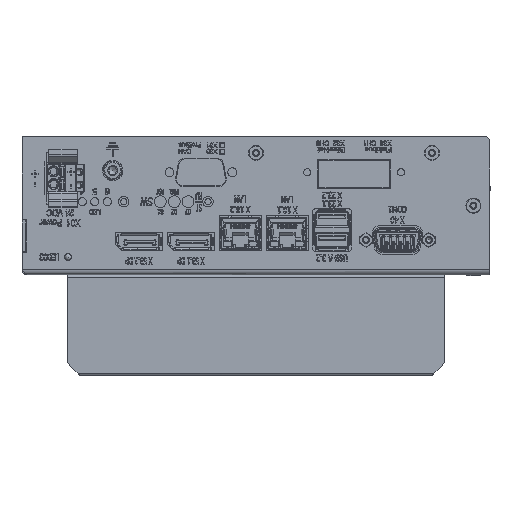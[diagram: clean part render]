
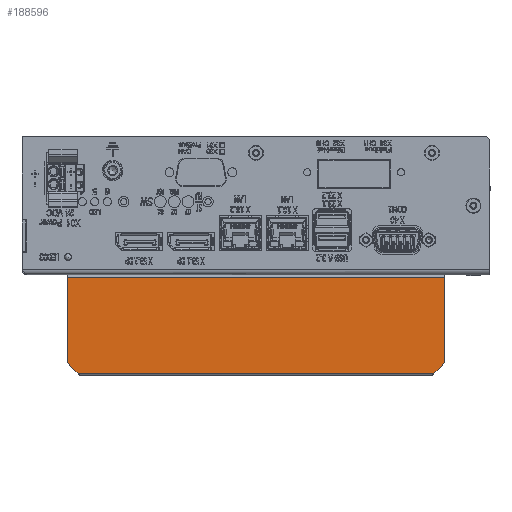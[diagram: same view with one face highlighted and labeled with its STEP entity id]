
A CAD part, front view. The second image highlights one B-rep face of the part: STEP entity #188596.
In plain terms, the highlighted planar face has unit normal (0, -1, 0).
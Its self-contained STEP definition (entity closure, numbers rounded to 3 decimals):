
#18497=FACE_OUTER_BOUND('',#28654,.T.);
#28654=EDGE_LOOP('',(#155869,#155870,#155871,#155872,#155873,#155874));
#46797=LINE('',#318517,#66231);
#46799=LINE('',#318525,#66233);
#46934=LINE('',#318907,#66368);
#46935=LINE('',#318908,#66369);
#46936=LINE('',#318910,#66370);
#46937=LINE('',#318911,#66371);
#66231=VECTOR('',#234160,38.25);
#66233=VECTOR('',#234170,10.);
#66368=VECTOR('',#234557,10.);
#66369=VECTOR('',#234558,38.25);
#66370=VECTOR('',#234559,10.);
#66371=VECTOR('',#234560,10.);
#83675=VERTEX_POINT('',#318514);
#83676=VERTEX_POINT('',#318516);
#83678=VERTEX_POINT('',#318523);
#83798=VERTEX_POINT('',#318905);
#83799=VERTEX_POINT('',#318906);
#83800=VERTEX_POINT('',#318909);
#108071=EDGE_CURVE('',#83676,#83675,#46797,.T.);
#108076=EDGE_CURVE('',#83676,#83678,#46799,.T.);
#108266=EDGE_CURVE('',#83798,#83799,#46934,.T.);
#108267=EDGE_CURVE('',#83799,#83678,#46935,.T.);
#108268=EDGE_CURVE('',#83675,#83800,#46936,.T.);
#108269=EDGE_CURVE('',#83800,#83798,#46937,.T.);
#155869=ORIENTED_EDGE('',*,*,#108266,.T.);
#155870=ORIENTED_EDGE('',*,*,#108267,.T.);
#155871=ORIENTED_EDGE('',*,*,#108076,.F.);
#155872=ORIENTED_EDGE('',*,*,#108071,.T.);
#155873=ORIENTED_EDGE('',*,*,#108268,.T.);
#155874=ORIENTED_EDGE('',*,*,#108269,.T.);
#170677=PLANE('',#198805);
#188596=ADVANCED_FACE('',(#18497),#170677,.T.);
#198805=AXIS2_PLACEMENT_3D('',#318904,#234555,#234556);
#234160=DIRECTION('',(0.,0.,-1.));
#234170=DIRECTION('',(1.,0.,0.));
#234555=DIRECTION('center_axis',(0.,-1.,0.));
#234556=DIRECTION('ref_axis',(-1.,0.,0.));
#234557=DIRECTION('',(0.707,0.,0.707));
#234558=DIRECTION('',(0.,0.,1.));
#234559=DIRECTION('',(0.707,0.,-0.707));
#234560=DIRECTION('',(1.,0.,0.));
#318514=CARTESIAN_POINT('',(-75.,-50.,-35.));
#318516=CARTESIAN_POINT('',(-75.,-50.,-1.));
#318517=CARTESIAN_POINT('',(-75.,-50.,-1.));
#318523=CARTESIAN_POINT('',(75.,-50.,-1.));
#318525=CARTESIAN_POINT('',(-75.,-50.,-1.));
#318904=CARTESIAN_POINT('Origin',(-75.,-50.,-39.25));
#318905=CARTESIAN_POINT('',(70.75,-50.,-39.25));
#318906=CARTESIAN_POINT('',(75.,-50.,-35.));
#318907=CARTESIAN_POINT('',(33.938,-50.,-76.063));
#318908=CARTESIAN_POINT('',(75.,-50.,-39.25));
#318909=CARTESIAN_POINT('',(-70.75,-50.,-39.25));
#318910=CARTESIAN_POINT('',(-73.937,-50.,-36.063));
#318911=CARTESIAN_POINT('',(-75.,-50.,-39.25));
